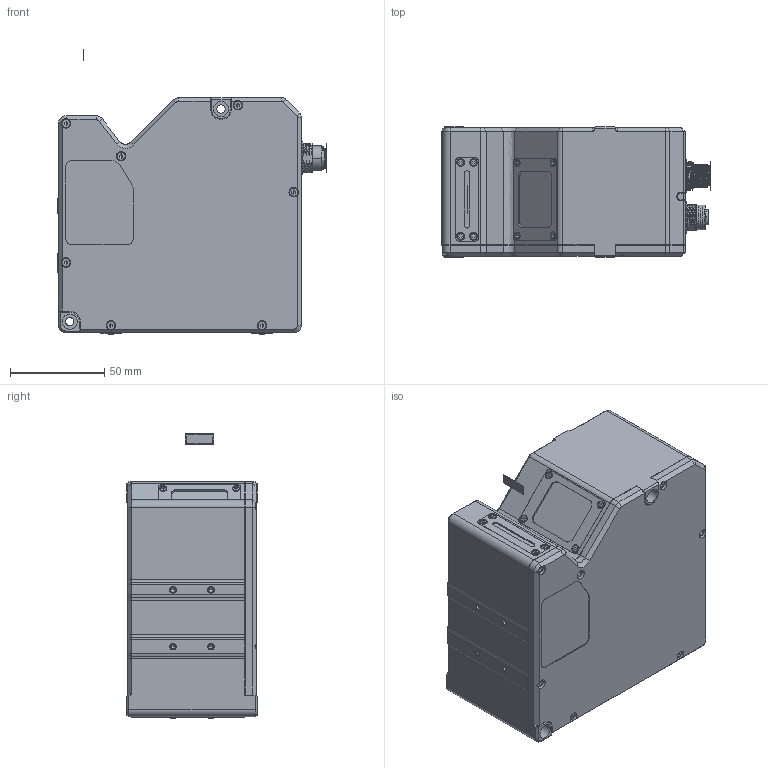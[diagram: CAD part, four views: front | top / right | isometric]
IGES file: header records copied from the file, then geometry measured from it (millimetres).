
Start section:  PTC IGES file: mv-dp4020-01p-0724.igs
Global section: file name: mv-dp4020-01p-0724.igs; native system: Creo Parametric by PTC Inc.; preprocessor: 2020044; author: wangminrui; organization: Unknown; date: 20250725.093620; units: millimetre
Bounding box: 142.49 x 69 x 150.42 mm (x, y, z)
Surface area: 74633 mm2 (no closed solid volume)
Topology: 0 solids, 0 shells, 1000 faces, 9106 edges, 10859 vertices
Faces by surface type: revolution 561, bspline 438, extrusion 1
